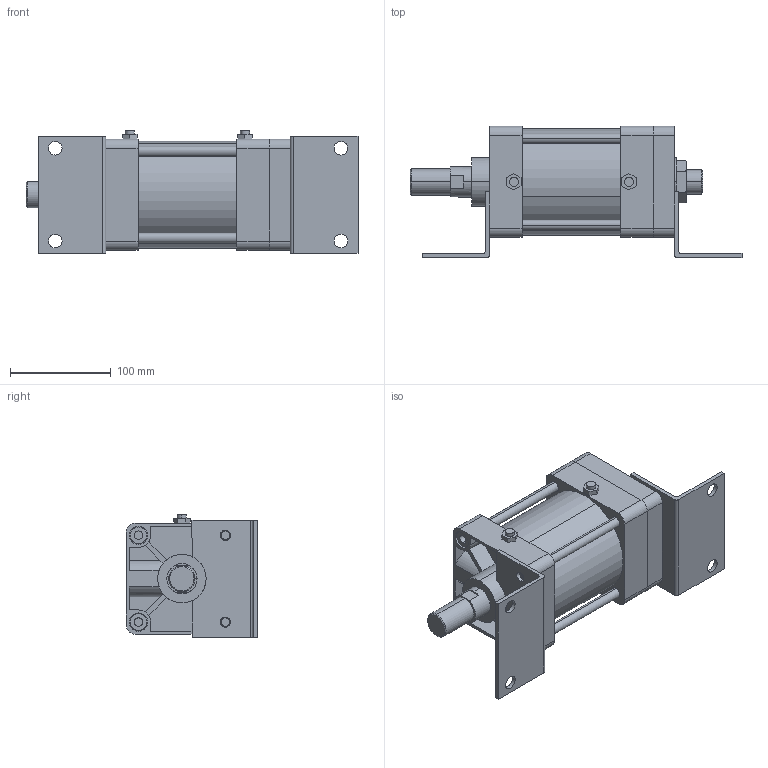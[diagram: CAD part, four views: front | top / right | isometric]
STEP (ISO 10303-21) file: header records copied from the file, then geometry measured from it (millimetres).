
FILE_DESCRIPTION (( 'STEP AP203' ), '1' );
FILE_NAME ('KGA2-100#-50-L.STEP', '2016-04-14T07:46:12', ( '' ), ( '' ), 'SwSTEP 2.0', 'SolidWorks 2014', '' );
FILE_SCHEMA (( 'CONFIG_CONTROL_DESIGN' ));
Length unit declared in the file: millimetre
Products named in the file (8): KGLH2-100-50; K-100-L; KG2-100-After; KGA2-100-After; KGA2-100#-50-L
Assembly tree (18 placements, depth 2):
  KGA2-100#-50-L
    KG2-100-After
    KGLH2-100-50
    (unnamed)
    (unnamed)  x4
    (unnamed)  x8
    K-100-L  x2
    KGA2-100-After
Bounding box: 329 x 130 x 121.3 mm (x, y, z)
Volume: 1873358.4 mm3; surface area: 304022.4 mm2
Topology: 18 solids, 18 shells, 384 faces, 919 edges, 590 vertices
Faces by surface type: plane 165, cylinder 153, torus 38, cone 28
Entity records: 9534 total; most frequent: CARTESIAN_POINT 1634, DIRECTION 1493, ORIENTED_EDGE 1350, EDGE_CURVE 675, AXIS2_PLACEMENT_3D 557, VERTEX_POINT 444, VECTOR 379, LINE 379
